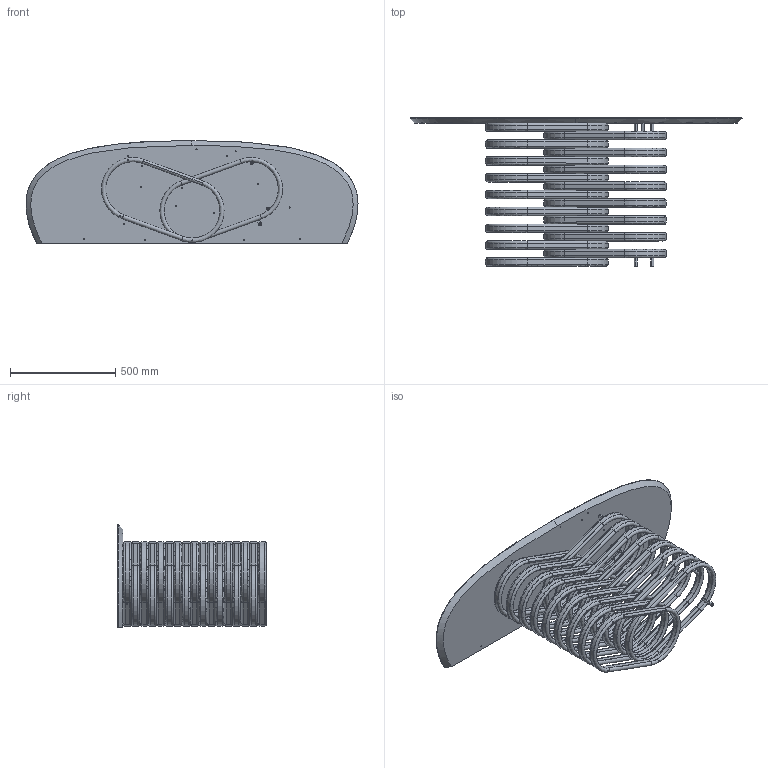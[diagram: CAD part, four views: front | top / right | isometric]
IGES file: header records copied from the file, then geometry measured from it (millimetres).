
Start section: SolidWorks IGES file using analytic representation for surfaces
Global section: file name: Y:\eforma\TECNICO\SOLIDWORKS\E-FORMA\3-CONSOLE\ROTOLO CONSOLE\02 parts\RO60M.IGS; native system: SolidWorks 2022; preprocessor: SolidWorks 2022; author: eforma.tech; date: 240806.120112; units: millimetre
Bounding box: 1575.75 x 705 x 488 mm (x, y, z)
Volume: 21566921.7 mm3; surface area: 6348000.8 mm2
Topology: 74 solids, 74 shells, 865 faces, 2104 edges, 1363 vertices
Faces by surface type: revolution 564, plane 297, bspline 4
